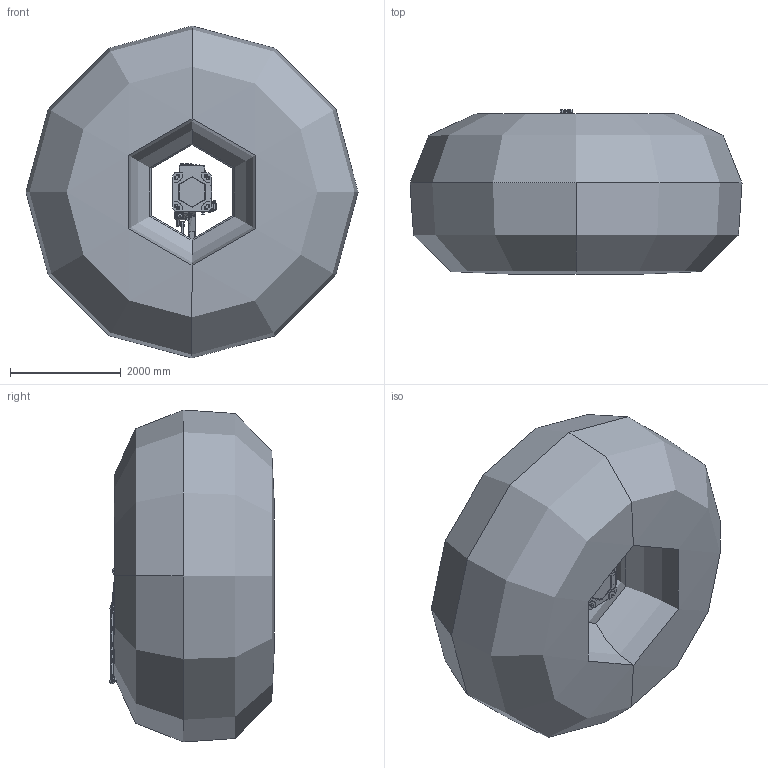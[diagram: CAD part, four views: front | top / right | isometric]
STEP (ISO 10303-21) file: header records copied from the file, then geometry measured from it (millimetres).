
FILE_DESCRIPTION (( 'STEP AP203' ), '1' );
FILE_NAME ('阹陎暱R310-180-4-E 俋窒耀倰.STEP', '2020-12-01T11:24:33', ( 'Topstarltd' ), ( 'Topstarltd.Com' ), 'SwSTEP 2.0', 'SolidWorks 2016', '' );
FILE_SCHEMA (( 'CONFIG_CONTROL_DESIGN' ));
Length unit declared in the file: millimetre
Products named in the file (20): 阹陎暱R310-180-4-E-15_1; 阹陎暱R310-180-4-E-7_1; 阹陎暱R310-180-4-E-16_1; 阹陎暱R310-180-4-E-8_1; 阹陎暱R310-180-4-E-17_1; 阹陎暱R310-180-4-E-9_1; 阹陎暱R310-180-4-E-1_1; 阹陎暱R310-180-4-E-18_1; 阹陎暱R310-180-4-E-10_1; 阹陎暱R310-180-4-E-2_1; 阹陎暱R310-180-4-E-19_1; 阹陎暱R310-180-4-E-11_1; 阹陎暱R310-180-4-E-3_1; 阹陎暱R310-180-4-E 俋窒耀倰; 阹陎暱R310-180-4-E-12_1; 阹陎暱R310-180-4-E-4_1; 阹陎暱R310-180-4-E-13_1; 阹陎暱R310-180-4-E-5_1; 阹陎暱R310-180-4-E-14_1; 阹陎暱R310-180-4-E-6_1
Assembly tree (53 placements, depth 2):
  阹陎暱R310-180-4-E 俋窒耀倰
    阹陎暱R310-180-4-E-1_1
    阹陎暱R310-180-4-E-2_1
    阹陎暱R310-180-4-E-3_1
    阹陎暱R310-180-4-E-4_1
    阹陎暱R310-180-4-E-5_1
    阹陎暱R310-180-4-E-6_1
    阹陎暱R310-180-4-E-7_1
    阹陎暱R310-180-4-E-8_1
    阹陎暱R310-180-4-E-9_1
    阹陎暱R310-180-4-E-10_1
    阹陎暱R310-180-4-E-11_1
    阹陎暱R310-180-4-E-12_1
    阹陎暱R310-180-4-E-13_1
    阹陎暱R310-180-4-E-14_1
    阹陎暱R310-180-4-E-15_1
    阹陎暱R310-180-4-E-16_1
    阹陎暱R310-180-4-E-17_1
    阹陎暱R310-180-4-E-18_1  x18
    阹陎暱R310-180-4-E-19_1  x18
Bounding box: 6004.21 x 2973.38 x 6004.21 mm (x, y, z)
Topology: 39 solids, 1044 shells, 8729 faces, 27135 edges, 19298 vertices
Faces by surface type: cylinder 3628, plane 2541, bspline 1133, torus 1002, cone 384, sphere 41
Entity records: 497003 total; most frequent: CARTESIAN_POINT 279378, ORIENTED_EDGE 42452, DIRECTION 40730, EDGE_CURVE 25799, VERTEX_POINT 18549, AXIS2_PLACEMENT_3D 14726, LINE 11278, VECTOR 11278
